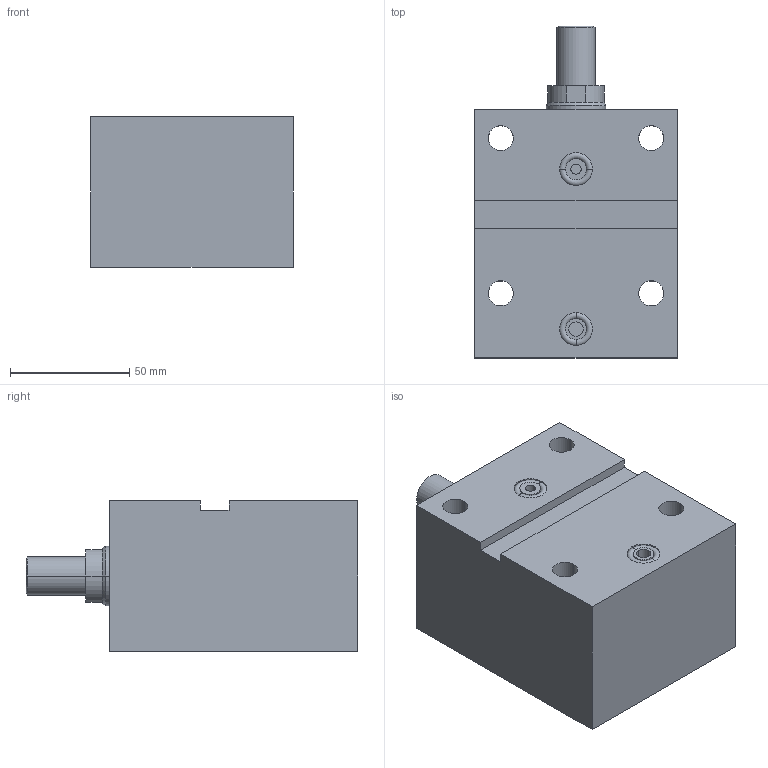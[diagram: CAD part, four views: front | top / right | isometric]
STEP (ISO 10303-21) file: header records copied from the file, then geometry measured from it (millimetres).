
FILE_DESCRIPTION (( 'STEP AP203' ), '1' );
FILE_NAME ('GERMA_Blockzylinder_603-040-050-A.STEP', '2016-04-06T15:57:17', ( '' ), ( '' ), 'SwSTEP 2.0', 'SolidWorks 2015', '' );
FILE_SCHEMA (( 'CONFIG_CONTROL_DESIGN' ));
Length unit declared in the file: millimetre
Products named in the file (3): GH-600-040_GH-603-040-050; Kolben 60x-040_Kolben DU.40-Hub50-AG; GERMA_Blockzylinder_603-040-050-A
Assembly tree (2 placements, depth 2):
  GERMA_Blockzylinder_603-040-050-A
    GH-600-040_GH-603-040-050
    Kolben 60x-040_Kolben DU.40-Hub50-AG
Bounding box: 85 x 139 x 63 mm (x, y, z)
Volume: 501657.3 mm3; surface area: 74567.9 mm2
Topology: 2 solids, 2 shells, 81 faces, 178 edges, 109 vertices
Faces by surface type: cylinder 39, plane 26, cone 12, torus 4
Entity records: 2534 total; most frequent: DIRECTION 439, CARTESIAN_POINT 369, ORIENTED_EDGE 348, AXIS2_PLACEMENT_3D 179, EDGE_CURVE 174, VERTEX_POINT 109, EDGE_LOOP 101, CIRCLE 93
